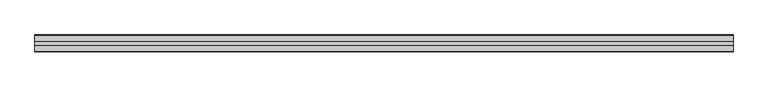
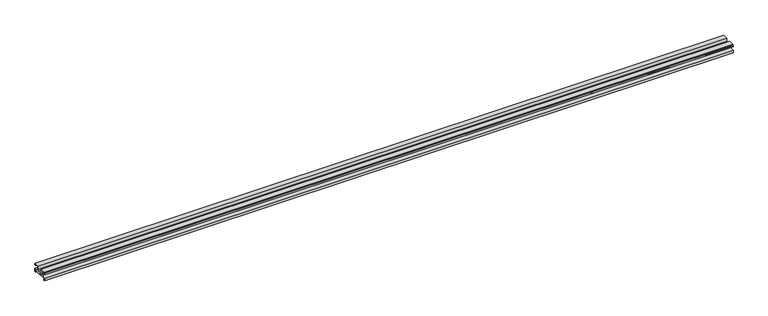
"""IFC4 building model written with IfcOpenShell, lengths in millimetres: proxy geometry, Weiku - Montante - Acoplamento vidro : Weiku - Montante - Acoplamento vidro."""

import ifcopenshell
import ifcopenshell.guid

model = None  # the IFC model being written
_history = None  # IfcOwnerHistory: only IFC2X3 demands one
_inside = {}  # id of a spatial element -> (the spatial element, [elements in it])
_under = {}  # id of a project, library or spatial element -> (it, [spatial elements below it])
_declared = {}  # id of a project -> (the project, [libraries it declares])
_typed = {}  # id of a type object -> (the type object, [elements of that type])
_made_of = {}  # id of a material, layer set ... -> (it, [elements and type objects made of it])


def new_model(schema):
    """Start an empty IFC model of exactly this schema.

    Asked for "IFC4X3", IfcOpenShell would pick the latest addendum, in which some entities
    have other attributes; the version numbers below select the first issue.
    IFC2X3 requires an IfcOwnerHistory on every rooted entity: one is made here for all.
    """
    global model, _history
    if schema == "IFC4X3":
        model = ifcopenshell.file(schema_version=(4, 3, 0, 0))
    else:
        model = ifcopenshell.file(schema=schema)
    _inside.clear()
    _under.clear()
    _declared.clear()
    _typed.clear()
    _made_of.clear()
    _history = None
    if model.schema == "IFC2X3":
        org = make("IfcOrganization", Name="unknown")
        user = make(
            "IfcPersonAndOrganization",
            ThePerson=make("IfcPerson", FamilyName="unknown"),
            TheOrganization=org,
        )
        app = make(
            "IfcApplication",
            ApplicationDeveloper=org,
            Version="unknown",
            ApplicationFullName="unknown",
            ApplicationIdentifier="unknown",
        )
        _history = make(
            "IfcOwnerHistory",
            OwningUser=user,
            OwningApplication=app,
            ChangeAction="ADDED",
            CreationDate=0,
        )
    return model


def make(cls, **values):
    """One entity of the class cls with the attributes given. An attribute that is None is left unset."""
    return model.create_entity(
        cls, **{name: value for name, value in values.items() if value is not None}
    )


def rooted(cls, **values):
    """An entity with a GlobalId (a new one), such as an element, a storey or a relation."""
    return make(cls, GlobalId=ifcopenshell.guid.new(), OwnerHistory=_history, **values)


def si_unit(unit_type, name, prefix=None):
    """IfcSIUnit, for example si_unit("LENGTHUNIT", "METRE", prefix="MILLI")."""
    return make("IfcSIUnit", UnitType=unit_type, Prefix=prefix, Name=name)


def assignment(units):
    """IfcUnitAssignment: the units of a project."""
    return None if units is None else make("IfcUnitAssignment", Units=units)


def point(xyz):
    """IfcCartesianPoint."""
    return None if xyz is None else make("IfcCartesianPoint", Coordinates=xyz)


def direction(xyz):
    """IfcDirection."""
    return None if xyz is None else make("IfcDirection", DirectionRatios=xyz)


def frame(location, z_axis=None, x_axis=None):
    """IfcAxis2Placement3D, a coordinate frame: its origin and axes. An axis left out is left unset."""
    return make(
        "IfcAxis2Placement3D",
        Location=point(location),
        Axis=direction(z_axis),
        RefDirection=direction(x_axis),
    )


def origin():
    """The frame at (0, 0, 0) with its axes left unset."""
    return frame((0.0, 0.0, 0.0))


def place(relative_to, where):
    """IfcLocalPlacement: puts the frame where relative to a parent placement (None: the world)."""
    return make(
        "IfcLocalPlacement", PlacementRelTo=relative_to, RelativePlacement=where
    )


def context(
    kind, dimensions, precision=None, world=None, true_north=None, identifier=None
):
    """IfcGeometricRepresentationContext, for example the 3D "Model" context."""
    return make(
        "IfcGeometricRepresentationContext",
        ContextIdentifier=identifier,
        ContextType=kind,
        CoordinateSpaceDimension=dimensions,
        Precision=precision,
        WorldCoordinateSystem=world,
        TrueNorth=true_north,
    )


def project(units=None, contexts=None):
    """IfcProject with its units and contexts."""
    return rooted(
        "IfcProject",
        Name="project",
        RepresentationContexts=contexts,
        UnitsInContext=assignment(units),
    )


def spatial(cls, under=None, at=None, **own):
    """A site, building, storey or space (cls), placed at a placement, below another one or the project."""
    s = rooted(cls, ObjectPlacement=at, **own)
    if under is not None:
        _under.setdefault(under.id(), (under, []))[1].append(s)
    return s


def polyline(points):
    """IfcPolyline through the points."""
    return make("IfcPolyline", Points=[point(p) for p in points])


def outline(outer, holes=None, kind="AREA"):
    """IfcArbitraryClosedProfileDef: a profile drawn as a closed curve; with holes, ...WithVoids."""
    if holes is None:
        return make("IfcArbitraryClosedProfileDef", ProfileType=kind, OuterCurve=outer)
    return make(
        "IfcArbitraryProfileDefWithVoids",
        ProfileType=kind,
        OuterCurve=outer,
        InnerCurves=holes,
    )


def extrude(swept, where, along, depth):
    """IfcExtrudedAreaSolid: the profile swept, set in the frame where, extruded along a direction by depth."""
    return make(
        "IfcExtrudedAreaSolid",
        SweptArea=swept,
        Position=where,
        ExtrudedDirection=direction(along),
        Depth=depth,
    )


def shape(context_of_items, identifier, shape_type, items):
    """IfcShapeRepresentation: the items that make up one representation, for example the "Body"."""
    return make(
        "IfcShapeRepresentation",
        ContextOfItems=context_of_items,
        RepresentationIdentifier=identifier,
        RepresentationType=shape_type,
        Items=items,
    )


def source(mapping_origin, context_of_items, identifier, shape_type, items):
    """IfcRepresentationMap: a shape defined once, which mapped items show again and again."""
    return make(
        "IfcRepresentationMap",
        MappingOrigin=mapping_origin,
        MappedRepresentation=shape(context_of_items, identifier, shape_type, items),
    )


def transform(
    local_origin,
    x_axis=None,
    y_axis=None,
    z_axis=None,
    scale=None,
    scale2=None,
    scale3=None,
    uniform=True,
):
    """IfcCartesianTransformationOperator3D, or its non-uniform kind. x_axis, y_axis, z_axis: its Axis1, 2, 3."""
    if uniform:
        return make(
            "IfcCartesianTransformationOperator3D",
            Axis1=direction(x_axis),
            Axis2=direction(y_axis),
            LocalOrigin=point(local_origin),
            Scale=scale,
            Axis3=direction(z_axis),
        )
    return make(
        "IfcCartesianTransformationOperator3DnonUniform",
        Axis1=direction(x_axis),
        Axis2=direction(y_axis),
        LocalOrigin=point(local_origin),
        Scale=scale,
        Axis3=direction(z_axis),
        Scale2=scale2,
        Scale3=scale3,
    )


def mapped(mapping_source, mapping_target):
    """IfcMappedItem: shows the shape of a source again, moved by a transform."""
    return make(
        "IfcMappedItem", MappingSource=mapping_source, MappingTarget=mapping_target
    )


def made_of(thing, what):
    """Note that an element or type object is made of a material, layer set ...; save() writes the relation."""
    if what is not None:
        _made_of.setdefault(what.id(), (what, []))[1].append(thing)
    return thing


def element(
    cls,
    number,
    at=None,
    inside=None,
    cuts=None,
    type_object=None,
    material=None,
    context=None,
    identifier="Body",
    shape_type=None,
    held_by="IfcProductDefinitionShape",
    body=None,
    shapes=None,
    **own,
):
    """One element of the class cls, such as IfcWall. Its Tag is "e" and its number.

    at: its placement. inside: the storey or other place that contains it. cuts: it is an
    opening in that element (IfcRelVoidsElement). A single representation is given by context,
    identifier, shape_type and body (its items); several are given by shapes. held_by: the class
    of the entity that holds the representations. save() writes the other relations.
    """
    e = rooted(cls, Tag="e%d" % number, ObjectPlacement=at, **own)
    if body is not None:
        shapes = [shape(context, identifier, shape_type, body)]
    if shapes is not None:
        e.Representation = make(held_by, Representations=shapes)
    if inside is not None:
        _inside.setdefault(inside.id(), (inside, []))[1].append(e)
    if cuts is not None:
        rooted(
            "IfcRelVoidsElement", RelatingBuildingElement=cuts, RelatedOpeningElement=e
        )
    if type_object is not None:
        _typed.setdefault(type_object.id(), (type_object, []))[1].append(e)
    return made_of(e, material)


def aggregate(whole, parts):
    """IfcRelAggregates: a whole, such as a stair, and the parts it consists of."""
    return rooted("IfcRelAggregates", RelatingObject=whole, RelatedObjects=parts)


def save(model, path):
    """Write the relations noted so far, then the file.

    IfcRelAggregates (storeys below a building ...), IfcRelContainedInSpatialStructure (elements
    in a storey), IfcRelDefinesByType, IfcRelAssociatesMaterial and IfcRelDeclares: one each for
    every whole, place, type object, material and project.
    """
    for whole, parts in _under.values():
        aggregate(whole, parts)
    for where, things in _inside.values():
        rooted(
            "IfcRelContainedInSpatialStructure",
            RelatedElements=things,
            RelatingStructure=where,
        )
    for kind, things in _typed.values():
        rooted("IfcRelDefinesByType", RelatedObjects=things, RelatingType=kind)
    for what, things in _made_of.values():
        rooted("IfcRelAssociatesMaterial", RelatedObjects=things, RelatingMaterial=what)
    for by, libraries in _declared.values():
        rooted("IfcRelDeclares", RelatingContext=by, RelatedDefinitions=libraries)
    model.write(path)


def generic_models_2dec1d0a(model_context):
    return source(origin(), model_context, "Body", "SweptSolid", [
        extrude(outline(polyline([(-35.405, 5.1494), (-35.405, 6.8004), (-45.741, 6.8004), (-45.741, 2.6094), (-43.8784, 2.6094), (-43.8784, 0.0), (-47.9014508, 0.0), (-47.9014508, 8.79), (-34.946, 8.79), (-34.946, 23.3104), (-43.5397, 23.3104), (-43.5397, 19.204), (-47.9, 19.204), (-47.9, 22.8024), (-46.9264, 22.8024), (-46.9264, 20.3894), (-44.725, 20.3894), (-44.725, 23.9454), (-45.5264504, 23.9454), (-45.5264504, 25.3), (-30.4164, 25.3), (-30.4164, 16.283), (-32.4484, 16.283), (-32.4484, 8.8), (-15.4516, 8.8), (-15.4516, 16.283), (-17.4836, 16.283), (-17.4836, 25.3), (-2.3735496, 25.3), (-2.3735496, 23.9454), (-3.175, 23.9454), (-3.175, 20.3894), (-0.9736, 20.3894), (-0.9736, 22.8024), (0.0, 22.8024), (0.0, 19.204), (-4.3603, 19.204), (-4.3603, 23.3104), (-12.954, 23.3104), (-12.954, 8.79), (0.0014508, 8.79), (0.0014508, 0.0), (-4.0216, 0.0), (-4.0216, 2.6094), (-2.159, 2.6094), (-2.159, 6.8004), (-12.495, 6.8004), (-12.495, 5.1494), (-35.405, 5.1494)])), frame((-978.95, 0.0, 0.0), z_axis=(1.0, 0.0, 0.0), x_axis=(0.0, 1.0, 0.0)), (0.0, 0.0, 1.0), 1957.9),
    ])


if __name__ == "__main__":
    model = new_model("IFC4")
    model_context = context("Model", 3, world=origin())
    ifc_project = project(units=[si_unit("LENGTHUNIT", "METRE", prefix="MILLI")], contexts=[model_context])
    site = spatial("IfcSite", under=ifc_project)
    building = spatial("IfcBuilding", under=site)
    placement = place(None, origin())
    generic_models_shape = generic_models_2dec1d0a(model_context)
    element("IfcBuildingElementProxy", 1, Name="Weiku - Montante - Acoplamento vidro : Weiku - Montante - Acoplamento vidro", ObjectType="Weiku - Montante - Acoplamento vidro : Weiku - Montante - Acoplamento vidro", at=placement, inside=building, context=model_context, shape_type="MappedRepresentation", body=[
        mapped(generic_models_shape, transform((0.0, 0.0, 0.0), x_axis=(1.0, 0.0, 0.0), y_axis=(0.0, 1.0, 0.0), z_axis=(0.0, 0.0, 1.0))),
    ])
    save(model, "model.ifc")
